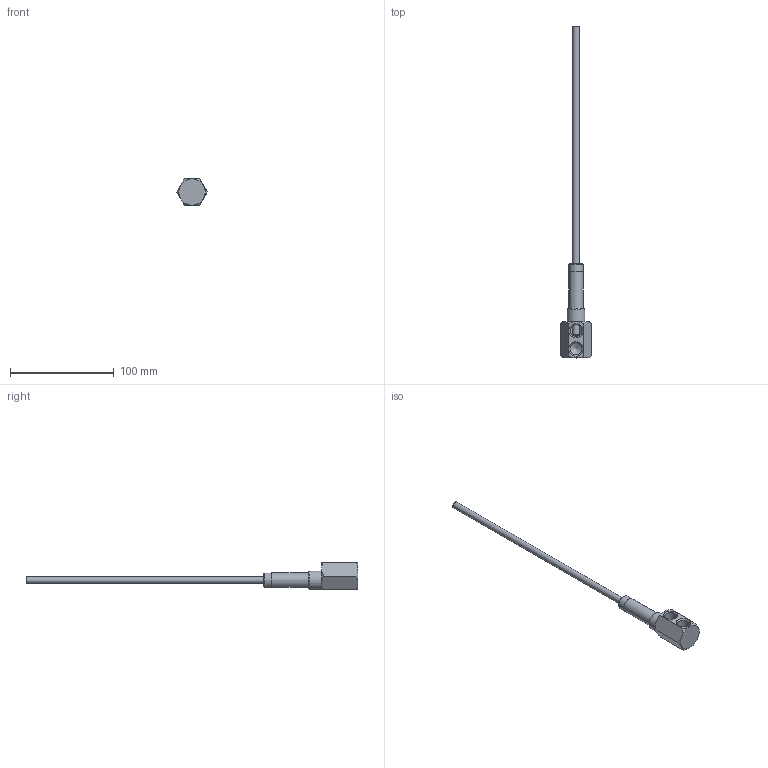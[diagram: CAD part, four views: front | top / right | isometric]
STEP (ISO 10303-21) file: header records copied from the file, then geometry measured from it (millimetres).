
FILE_DESCRIPTION(/* description */ (''),/* implementation_level */ '2;1');
FILE_NAME(/* name */ 'C:/Users/drich/Desktop/HF146N-4 v1.step',/* time_stamp */ '2020-01-15T19:32:48-06:00',/* author */ (''),/* organization */ (''),/* preprocessor_version */ 'ST-DEVELOPER v18',/* originating_system */ 'Autodesk Translation Framework v8.12.0.6',/* authorisation */ '');
FILE_SCHEMA (('AUTOMOTIVE_DESIGN { 1 0 10303 214 3 1 1 }'));
Length unit declared in the file: inch
Products named in the file (4): HF146N-4; HF146H-4; SSPN14-2; HF250T-12
Assembly tree (3 placements, depth 2):
  HF146N-4
    HF146H-4
    SSPN14-2
    HF250T-12
Bounding box: 29.33 x 319.4 x 25.4 mm (x, y, z)
Volume: 21265.9 mm3; surface area: 22270.8 mm2
Topology: 3 solids, 3 shells, 46 faces, 117 edges, 81 vertices
Faces by surface type: plane 17, cone 13, cylinder 13, torus 3
Full cylindrical faces by diameter (mm): 5.842 x1, 6.35 x1, 6.909 x1, 7.818 x1, 7.976 x1, 9.246 x1, 11.668 x3, 13.665 x2, 13.716 x1, 17.272 x1
Entity records: 1603 total; most frequent: CARTESIAN_POINT 328, DIRECTION 270, ORIENTED_EDGE 232, AXIS2_PLACEMENT_3D 120, EDGE_CURVE 116, VERTEX_POINT 81, CIRCLE 64, EDGE_LOOP 59
